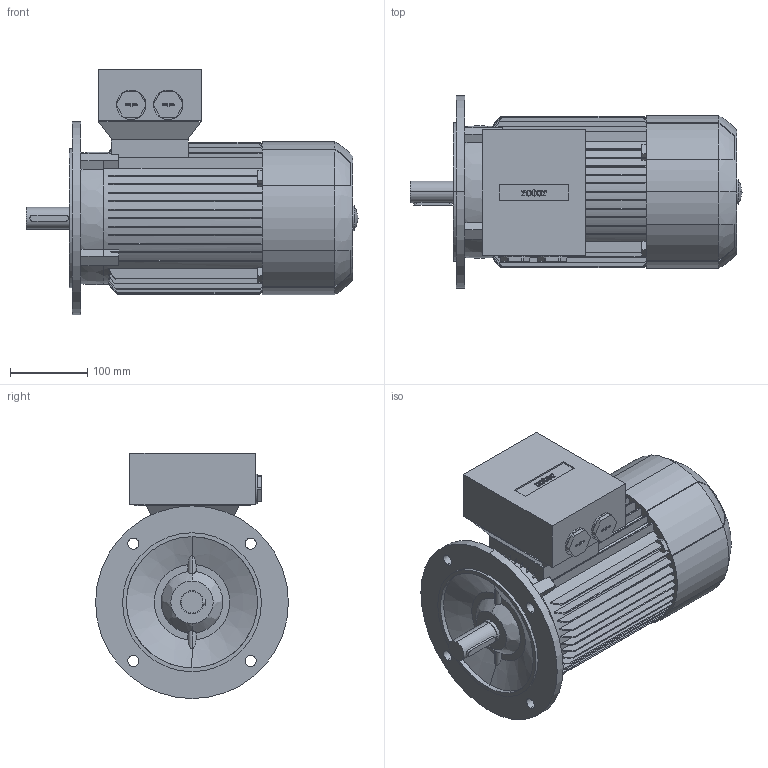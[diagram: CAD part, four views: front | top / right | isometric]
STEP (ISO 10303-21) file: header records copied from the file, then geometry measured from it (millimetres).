
FILE_DESCRIPTION (( 'STEP AP214' ), '1' );
FILE_NAME ('6RN100L02E34 IM3001.STEP', '2014-09-16T08:22:40', ( 'rbc_ict' ), ( 'REGAL' ), 'SwSTEP 2.0', 'SolidWorks 2012', '' );
FILE_SCHEMA (( 'AUTOMOTIVE_DESIGN' ));
Length unit declared in the file: millimetre
Products named in the file (1): 6RN100L02E34 IM3001
Bounding box: 430.5 x 250 x 318 mm (x, y, z)
Volume: 11437093.2 mm3; surface area: 614079.3 mm2
Topology: 1 solids, 1 shells, 622 faces, 1766 edges, 1166 vertices
Faces by surface type: plane 358, bspline 147, cylinder 111, cone 6
Entity records: 24399 total; most frequent: CARTESIAN_POINT 9053, ORIENTED_EDGE 3528, DIRECTION 2768, EDGE_CURVE 1764, VERTEX_POINT 1166, LINE 970, VECTOR 970, AXIS2_PLACEMENT_3D 899
